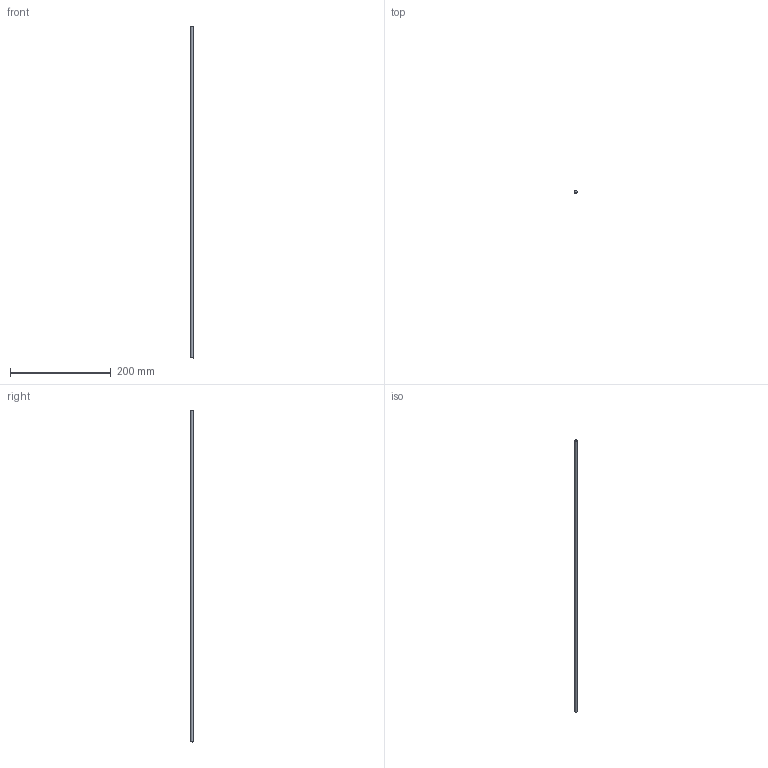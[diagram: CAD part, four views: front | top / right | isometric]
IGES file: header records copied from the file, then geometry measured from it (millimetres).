
Start section: File produced by SOLID-CONCEP (Trim Surfaces - Entity 144)
Global section: file name: 30.igs; native system: SOLID-CONCEPT V.5.xx; preprocessor: SOLID-CONCEPT-IGES-OUT v2.00; date: 100220.132509; units: millimetre
Bounding box: 5 x 5 x 660 mm (x, y, z)
Surface area: 10406.5 mm2 (no closed solid volume)
Topology: 0 solids, 0 shells, 3 faces, 12 edges, 10 vertices
Faces by surface type: bspline 2, revolution 1
